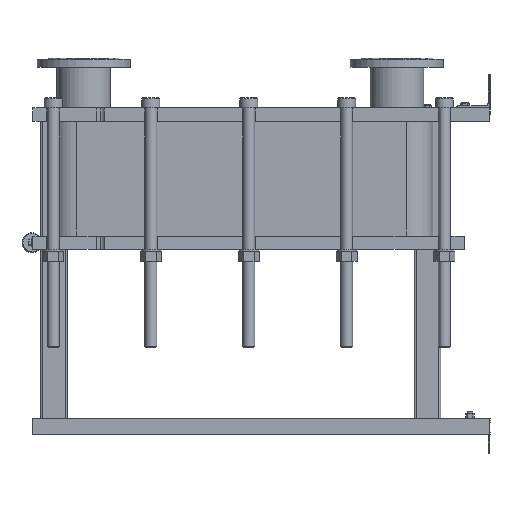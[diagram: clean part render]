
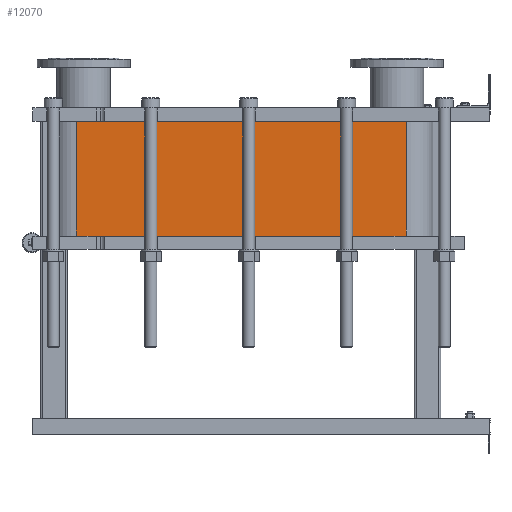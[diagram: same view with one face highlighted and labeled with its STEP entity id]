
A CAD part, left-side view. The second image highlights one B-rep face of the part: STEP entity #12070.
In plain terms, the highlighted planar face has unit normal (-1, 0, 0).
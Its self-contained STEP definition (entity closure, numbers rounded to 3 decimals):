
#1064=LINE('',#21140,#2164);
#1065=LINE('',#21144,#2165);
#1066=LINE('',#21146,#2166);
#1067=LINE('',#21147,#2167);
#2164=VECTOR('',#15790,10.);
#2165=VECTOR('',#15795,10.);
#2166=VECTOR('',#15796,10.);
#2167=VECTOR('',#15797,10.);
#3304=FACE_OUTER_BOUND('',#4091,.T.);
#4091=EDGE_LOOP('',(#9793,#9794,#9795,#9796));
#5677=VERTEX_POINT('',#21137);
#5678=VERTEX_POINT('',#21139);
#5679=VERTEX_POINT('',#21143);
#5680=VERTEX_POINT('',#21145);
#7118=EDGE_CURVE('',#5678,#5677,#1064,.T.);
#7120=EDGE_CURVE('',#5677,#5679,#1065,.T.);
#7121=EDGE_CURVE('',#5680,#5679,#1066,.T.);
#7122=EDGE_CURVE('',#5680,#5678,#1067,.T.);
#9793=ORIENTED_EDGE('',*,*,#7120,.T.);
#9794=ORIENTED_EDGE('',*,*,#7121,.F.);
#9795=ORIENTED_EDGE('',*,*,#7122,.T.);
#9796=ORIENTED_EDGE('',*,*,#7118,.T.);
#11441=PLANE('',#13191);
#12070=ADVANCED_FACE('',(#3304),#11441,.T.);
#13191=AXIS2_PLACEMENT_3D('',#21142,#15793,#15794);
#15790=DIRECTION('',(0.,0.,-1.));
#15793=DIRECTION('center_axis',(-1.,0.,0.));
#15794=DIRECTION('ref_axis',(0.,1.,0.));
#15795=DIRECTION('',(0.,-1.,0.));
#15796=DIRECTION('',(0.,0.,-1.));
#15797=DIRECTION('',(0.,1.,0.));
#21137=CARTESIAN_POINT('',(-248.152,1243.818,-345.));
#21139=CARTESIAN_POINT('',(-248.152,1243.818,0.));
#21140=CARTESIAN_POINT('',(-248.152,1243.818,0.));
#21142=CARTESIAN_POINT('Origin',(-248.152,251.818,0.));
#21143=CARTESIAN_POINT('',(-248.152,251.818,-345.));
#21144=CARTESIAN_POINT('',(-248.152,499.818,-345.));
#21145=CARTESIAN_POINT('',(-248.152,251.818,0.));
#21146=CARTESIAN_POINT('',(-248.152,251.818,0.));
#21147=CARTESIAN_POINT('',(-248.152,251.818,0.));
